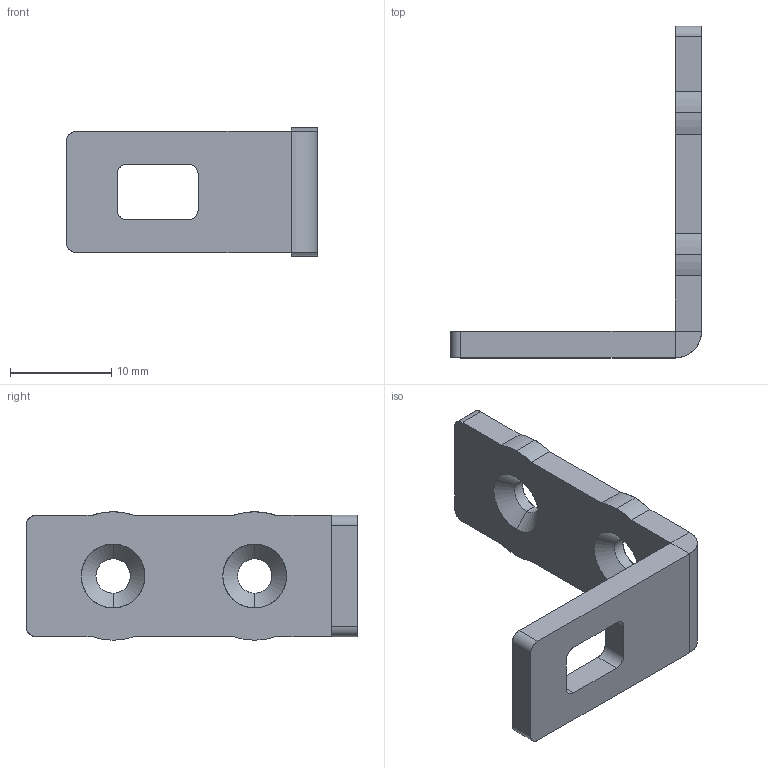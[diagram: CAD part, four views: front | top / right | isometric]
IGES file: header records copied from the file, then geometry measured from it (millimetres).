
Start section: SolidWorks IGES file using analytic representation for surfaces
Bounding box: 24.8 x 32.8 x 12.7 mm (x, y, z)
Surface area: 1640.5 mm2 (no closed solid volume)
Topology: 0 solids, 0 shells, 44 faces, 494 edges, 494 vertices
Faces by surface type: revolution 24, bspline 20
